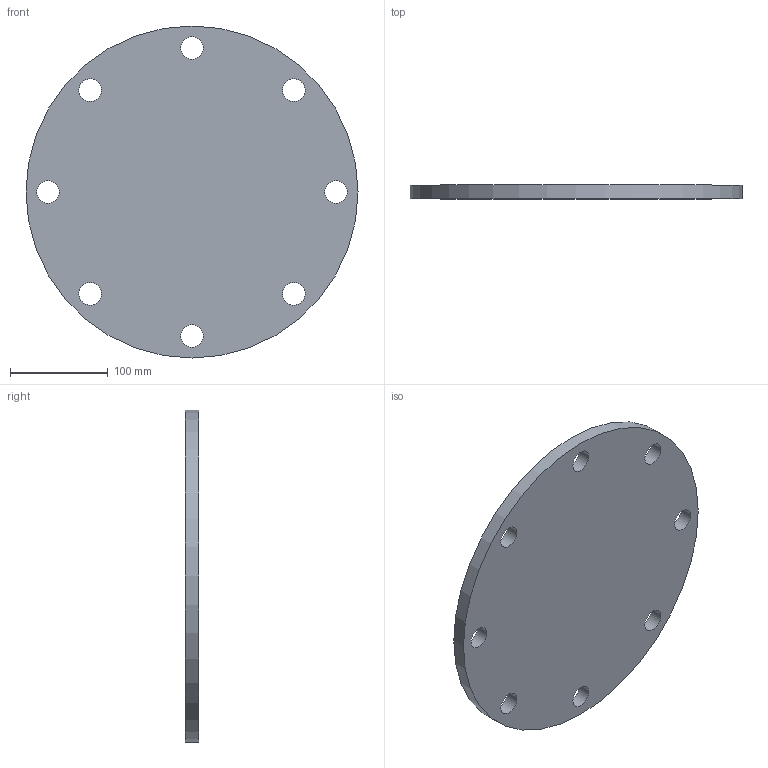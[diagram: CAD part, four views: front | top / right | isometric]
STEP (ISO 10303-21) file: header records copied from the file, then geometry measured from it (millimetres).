
FILE_DESCRIPTION(/* description */ (''),/* implementation_level */ '2;1');
FILE_NAME(/* name */ 'Z:\Geberit\Export\NewStep\370748.stp',/* time_stamp */ '2014-04-02T08:04:36+02:00',/* author */ ('nelson'),/* organization */ (''),/* preprocessor_version */ 'ST-DEVELOPER v15.2',/* originating_system */ 'Autodesk Inventor 2014',/* authorisation */ '');
FILE_SCHEMA (('AUTOMOTIVE_DESIGN { 1 0 10303 214 3 1 1 }'));
Length unit declared in the file: millimetre
Products named in the file (1): 370748
Bounding box: 340 x 14 x 340 mm (x, y, z)
Volume: 1224555.1 mm3; surface area: 197983.2 mm2
Topology: 1 solids, 1 shells, 11 faces, 27 edges, 18 vertices
Faces by surface type: cylinder 9, plane 2
Full cylindrical faces by diameter (mm): 23 x8, 340 x1
Entity records: 347 total; most frequent: DIRECTION 60, CARTESIAN_POINT 48, EDGE_LOOP 36, ORIENTED_EDGE 36, AXIS2_PLACEMENT_3D 30, FACE_BOUND 27, CIRCLE 18, VERTEX_POINT 18
